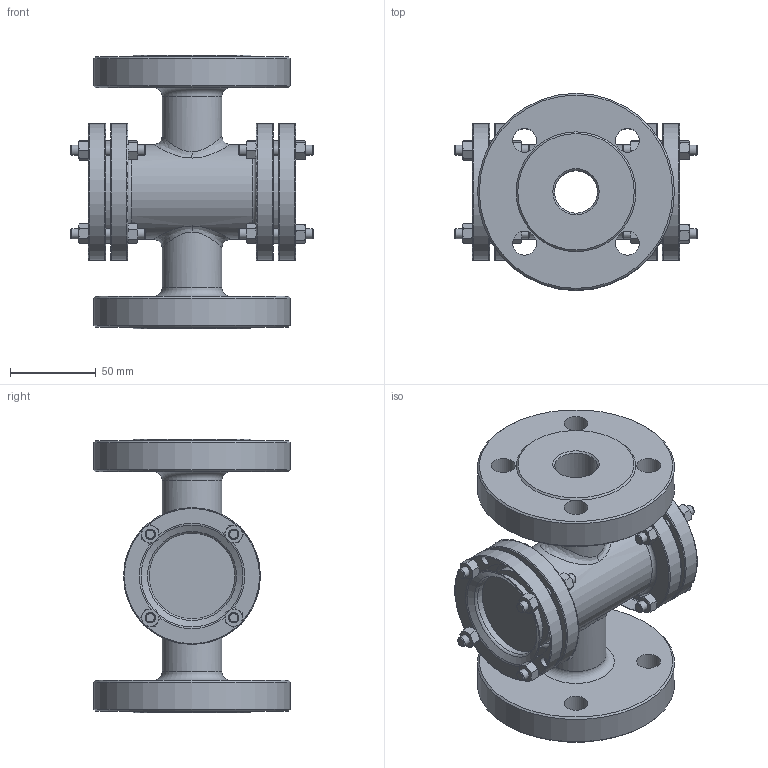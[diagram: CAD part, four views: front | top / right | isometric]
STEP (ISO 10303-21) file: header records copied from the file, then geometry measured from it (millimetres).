
FILE_DESCRIPTION(('STEP AP242'), '1');
FILE_NAME('SG2-34G-F Ñòåêëî ñìîòðîâîå DN.ru Äó25 Ðó40', '', ('UNSPECIFIED'), ('UNSPECIFIED'), 'C3D Converter', 'C3D Toolkit', '');
FILE_SCHEMA(('AP242_MANAGED_MODEL_BASED_3D_ENGINEERING_MIM_LF { 1 0 10303 442 1 1 4 }'));
Length unit declared in the file: millimetre
Products named in the file (1): SG2-34G-F
Bounding box: 141.5 x 115 x 160 mm (x, y, z)
Volume: 559113.1 mm3; surface area: 140924 mm2
Topology: 1 solids, 1 shells, 523 faces, 1224 edges, 737 vertices
Faces by surface type: cone 218, plane 203, cylinder 55, bspline 31, torus 16
Full cylindrical faces by diameter (mm): 6 x24, 14 x8, 25 x2, 35 x2, 50 x3, 55 x1, 60 x2, 80 x4, 115 x2
Entity records: 30653 total; most frequent: CARTESIAN_POINT 17975, ORIENTED_EDGE 2254, DIRECTION 2122, EDGE_CURVE 1127, AXIS2_PLACEMENT_3D 968, VERTEX_POINT 731, EDGE_LOOP 682, FACE_BOUND 576
